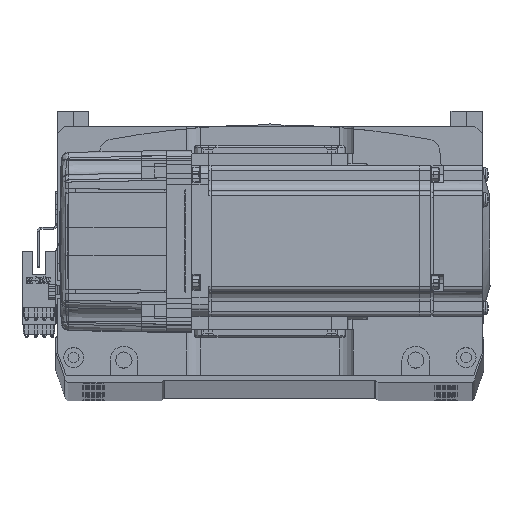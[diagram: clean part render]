
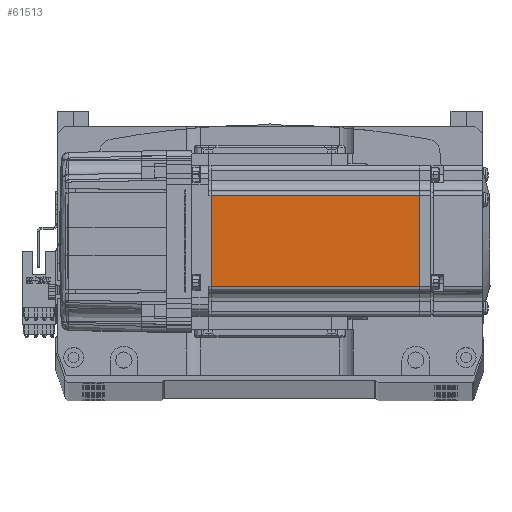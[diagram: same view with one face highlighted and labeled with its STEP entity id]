
A CAD part, top view. The second image highlights one B-rep face of the part: STEP entity #61513.
In plain terms, the highlighted planar face has unit normal (0, 0, 1) as drawn and (0, -1, 0) by its records, which use the part's own axes.
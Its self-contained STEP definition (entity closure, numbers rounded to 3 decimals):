
#2929 = DIRECTION ( 'NONE',  ( 0., -1., 0. ) ) ;
#4926 = ORIENTED_EDGE ( 'NONE', *, *, #74959, .T. ) ;
#7087 = CARTESIAN_POINT ( 'NONE',  ( -6.5, -30., -18. ) ) ;
#8757 = CARTESIAN_POINT ( 'NONE',  ( -90.45, -30., -18. ) ) ;
#9323 = DIRECTION ( 'NONE',  ( 0., 0., -1. ) ) ;
#9456 = CARTESIAN_POINT ( 'NONE',  ( -7.75, -30., 18. ) ) ;
#12400 = LINE ( 'NONE', #27237, #62564 ) ;
#13559 = FACE_OUTER_BOUND ( 'NONE', #39539, .T. ) ;
#14742 = EDGE_CURVE ( 'NONE', #35897, #52667, #64428, .T. ) ;
#15200 = PLANE ( 'NONE',  #62427 ) ;
#15285 = ORIENTED_EDGE ( 'NONE', *, *, #74509, .T. ) ;
#27237 = CARTESIAN_POINT ( 'NONE',  ( -7.75, -30., -25. ) ) ;
#27795 = VECTOR ( 'NONE', #33579, 1000. ) ;
#30754 = CARTESIAN_POINT ( 'NONE',  ( -90.45, -30., 18. ) ) ;
#32880 = DIRECTION ( 'NONE',  ( 0., 0., 1. ) ) ;
#33579 = DIRECTION ( 'NONE',  ( -1., 0., 0. ) ) ;
#35897 = VERTEX_POINT ( 'NONE', #8757 ) ;
#36510 = CARTESIAN_POINT ( 'NONE',  ( -6.5, -30., 18. ) ) ;
#39498 = EDGE_CURVE ( 'NONE', #74937, #35897, #66583, .T. ) ;
#39539 = EDGE_LOOP ( 'NONE', ( #15285, #4926, #69710, #70335 ) ) ;
#47893 = DIRECTION ( 'NONE',  ( 1., 0., 0. ) ) ;
#48092 = CARTESIAN_POINT ( 'NONE',  ( -6.5, -30., -25. ) ) ;
#48143 = DIRECTION ( 'NONE',  ( 0., 0., -1. ) ) ;
#52667 = VERTEX_POINT ( 'NONE', #72078 ) ;
#55306 = VECTOR ( 'NONE', #47893, 1000. ) ;
#57489 = VERTEX_POINT ( 'NONE', #9456 ) ;
#61152 = VECTOR ( 'NONE', #48143, 1000. ) ;
#61513 = ADVANCED_FACE ( 'NONE', ( #13559 ), #15200, .T. ) ;
#62427 = AXIS2_PLACEMENT_3D ( 'NONE', #48092, #2929, #9323 ) ;
#62564 = VECTOR ( 'NONE', #32880, 1000. ) ;
#64428 = LINE ( 'NONE', #7087, #55306 ) ;
#66445 = CARTESIAN_POINT ( 'NONE',  ( -90.45, -30., -25. ) ) ;
#66583 = LINE ( 'NONE', #66445, #61152 ) ;
#69710 = ORIENTED_EDGE ( 'NONE', *, *, #39498, .T. ) ;
#70335 = ORIENTED_EDGE ( 'NONE', *, *, #14742, .T. ) ;
#72078 = CARTESIAN_POINT ( 'NONE',  ( -7.75, -30., -18. ) ) ;
#74356 = LINE ( 'NONE', #36510, #27795 ) ;
#74509 = EDGE_CURVE ( 'NONE', #52667, #57489, #12400, .T. ) ;
#74937 = VERTEX_POINT ( 'NONE', #30754 ) ;
#74959 = EDGE_CURVE ( 'NONE', #57489, #74937, #74356, .T. ) ;
